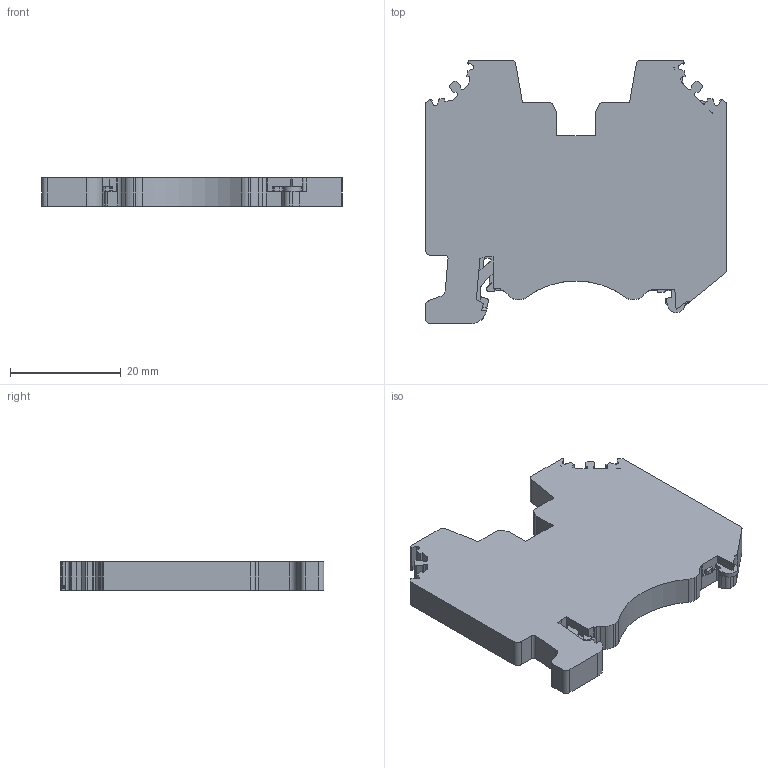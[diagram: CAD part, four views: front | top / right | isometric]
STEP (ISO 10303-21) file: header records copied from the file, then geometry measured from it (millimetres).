
FILE_DESCRIPTION((''),'2;1');
FILE_NAME('PRT1381','2022-03-16T',('P'),(''),'PRO/ENGINEER BY PARAMETRIC TECHNOLOGY CORPORATION, 2010280','PRO/ENGINEER BY PARAMETRIC TECHNOLOGY CORPORATION, 2010280','');
FILE_SCHEMA(('CONFIG_CONTROL_DESIGN'));
Length unit declared in the file: millimetre
Products named in the file (1): PRT1381
Bounding box: 54.4 x 47.7 x 5.1 mm (x, y, z)
Volume: 10031.9 mm3; surface area: 5596.5 mm2
Topology: 1 solids, 3 shells, 849 faces, 2312 edges, 1537 vertices
Faces by surface type: plane 571, cylinder 182, extrusion 71, torus 20, cone 5
Entity records: 28406 total; most frequent: CARTESIAN_POINT 6828, ORIENTED_EDGE 4624, DIRECTION 4177, EDGE_CURVE 2312, VECTOR 1735, LINE 1664, VERTEX_POINT 1537, AXIS2_PLACEMENT_3D 1221
